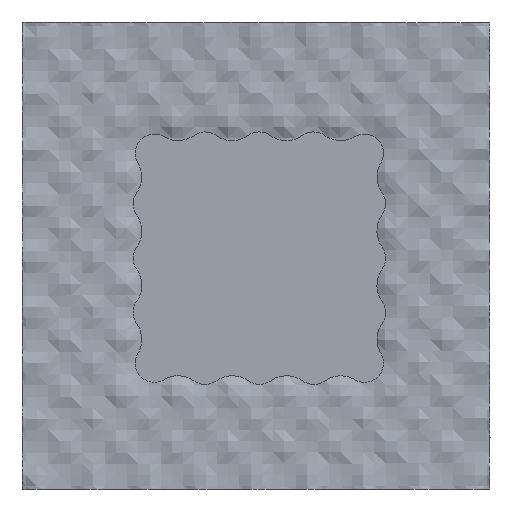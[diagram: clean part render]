
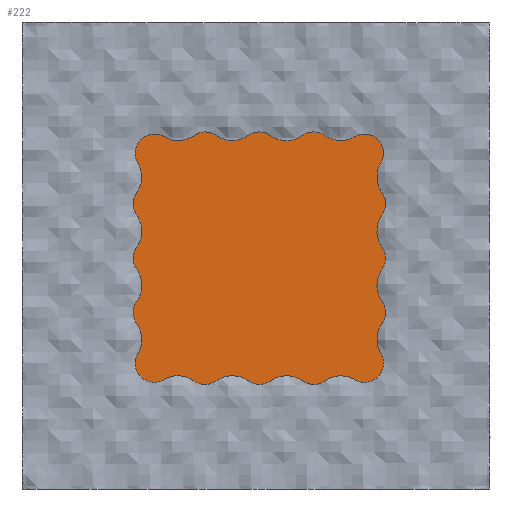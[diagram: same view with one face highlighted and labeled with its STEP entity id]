
A CAD part, front view. The second image highlights one B-rep face of the part: STEP entity #222.
In plain terms, the highlighted planar face has unit normal (0, -1, 0).
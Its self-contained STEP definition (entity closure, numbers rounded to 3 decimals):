
#222=ADVANCED_FACE('',(#307),#1180,.T.);
#307=FACE_OUTER_BOUND('',#392,.T.);
#392=EDGE_LOOP('',(#485));
#485=ORIENTED_EDGE('',*,*,#860,.T.);
#860=EDGE_CURVE('',#1061,#1061,#1047,.T.);
#1047=(
BOUNDED_CURVE()
B_SPLINE_CURVE(2,(#1655,#1656,#1657,#1658,#1659,#1660,#1661,#1662,#1663,
#1664,#1665,#1666,#1667,#1668,#1669,#1670,#1671,#1672,#1673,#1674,#1675,
#1676,#1677,#1678,#1679,#1680,#1681,#1682,#1683,#1684,#1685,#1686,#1687,
#1688,#1689,#1690,#1691,#1692,#1693,#1694,#1695,#1696,#1697,#1698,#1699,
#1700,#1701,#1702,#1703,#1704,#1705,#1706,#1707,#1708,#1709,#1710,#1711,
#1712,#1713,#1714,#1715,#1716,#1717,#1718,#1719,#1720,#1721,#1722,#1723,
#1724,#1725,#1726,#1727),.UNSPECIFIED.,.T.,.F.)
B_SPLINE_CURVE_WITH_KNOTS((3,2,2,2,2,2,2,2,2,2,2,2,2,2,2,2,2,2,2,2,2,2,
2,2,2,2,2,2,2,2,2,2,2,2,2,2,3),(0.,43.33,102.072,148.257,
194.443,253.188,296.52,359.802,403.231,
466.513,509.845,568.59,614.775,660.961,
719.702,763.033,826.317,869.748,933.032,
976.363,1035.104,1081.289,1127.475,1186.22,
1229.552,1292.834,1336.263,1399.545,1442.877,
1501.622,1547.807,1593.993,1652.734,1696.065,
1759.349,1802.78,1866.064),.UNSPECIFIED.)
CURVE()
GEOMETRIC_REPRESENTATION_ITEM()
RATIONAL_B_SPLINE_CURVE((1.,0.814,1.,0.839,1.,0.79,
1.,0.79,1.,0.839,1.,0.814,1.,0.814,
1.,0.814,1.,0.814,1.,0.814,1.,0.839,
1.,0.79,1.,0.79,1.,0.839,1.,0.814,
1.,0.814,1.,0.814,1.,0.814,1.,0.814,
1.,0.839,1.,0.79,1.,0.79,1.,0.839,
1.,0.814,1.,0.814,1.,0.814,1.,0.814,
1.,0.814,1.,0.839,1.,0.79,1.,0.79,
1.,0.839,1.,0.814,1.,0.814,1.,0.814,
1.,0.814,1.))
REPRESENTATION_ITEM('')
);
#1061=VERTEX_POINT('',#1579);
#1180=PLANE('',#1274);
#1274=AXIS2_PLACEMENT_3D('',#1431,#1352,$);
#1352=DIRECTION('',(0.,-1.,0.));
#1431=CARTESIAN_POINT('',(-150.067,-270.9,684.227));
#1579=CARTESIAN_POINT('',(-130.714,-270.9,849.905));
#1655=CARTESIAN_POINT('',(-130.714,-270.9,849.905));
#1656=CARTESIAN_POINT('',(-145.211,-270.9,829.617));
#1657=CARTESIAN_POINT('',(-130.772,-270.9,809.289));
#1658=CARTESIAN_POINT('',(-111.595,-270.9,782.291));
#1659=CARTESIAN_POINT('',(-128.456,-270.9,753.789));
#1660=CARTESIAN_POINT('',(-142.28,-270.9,730.42));
#1661=CARTESIAN_POINT('',(-123.081,-270.9,711.221));
#1662=CARTESIAN_POINT('',(-103.882,-270.9,692.021));
#1663=CARTESIAN_POINT('',(-80.512,-270.9,705.845));
#1664=CARTESIAN_POINT('',(-52.008,-270.9,722.706));
#1665=CARTESIAN_POINT('',(-25.01,-270.9,703.526));
#1666=CARTESIAN_POINT('',(-4.682,-270.9,689.085));
#1667=CARTESIAN_POINT('',(15.607,-270.9,703.58));
#1668=CARTESIAN_POINT('',(45.258,-270.9,724.765));
#1669=CARTESIAN_POINT('',(74.907,-270.9,703.578));
#1670=CARTESIAN_POINT('',(95.254,-270.9,689.037));
#1671=CARTESIAN_POINT('',(115.603,-270.9,703.576));
#1672=CARTESIAN_POINT('',(145.251,-270.9,724.758));
#1673=CARTESIAN_POINT('',(174.9,-270.9,703.577));
#1674=CARTESIAN_POINT('',(195.189,-270.9,689.087));
#1675=CARTESIAN_POINT('',(215.514,-270.9,703.526));
#1676=CARTESIAN_POINT('',(242.512,-270.9,722.706));
#1677=CARTESIAN_POINT('',(271.017,-270.9,705.845));
#1678=CARTESIAN_POINT('',(294.386,-270.9,692.021));
#1679=CARTESIAN_POINT('',(313.585,-270.9,711.221));
#1680=CARTESIAN_POINT('',(332.785,-270.9,730.42));
#1681=CARTESIAN_POINT('',(318.96,-270.9,753.789));
#1682=CARTESIAN_POINT('',(302.1,-270.9,782.291));
#1683=CARTESIAN_POINT('',(321.276,-270.9,809.289));
#1684=CARTESIAN_POINT('',(335.715,-270.9,829.617));
#1685=CARTESIAN_POINT('',(321.219,-270.9,849.905));
#1686=CARTESIAN_POINT('',(300.032,-270.9,879.556));
#1687=CARTESIAN_POINT('',(321.22,-270.9,909.206));
#1688=CARTESIAN_POINT('',(335.759,-270.9,929.552));
#1689=CARTESIAN_POINT('',(321.221,-270.9,949.898));
#1690=CARTESIAN_POINT('',(300.034,-270.9,979.545));
#1691=CARTESIAN_POINT('',(321.219,-270.9,1009.194));
#1692=CARTESIAN_POINT('',(335.715,-270.9,1029.481));
#1693=CARTESIAN_POINT('',(321.276,-270.9,1049.81));
#1694=CARTESIAN_POINT('',(302.1,-270.9,1076.808));
#1695=CARTESIAN_POINT('',(318.96,-270.9,1105.309));
#1696=CARTESIAN_POINT('',(332.785,-270.9,1128.678));
#1697=CARTESIAN_POINT('',(313.585,-270.9,1147.878));
#1698=CARTESIAN_POINT('',(294.386,-270.9,1167.077));
#1699=CARTESIAN_POINT('',(271.017,-270.9,1153.253));
#1700=CARTESIAN_POINT('',(242.512,-270.9,1136.392));
#1701=CARTESIAN_POINT('',(215.514,-270.9,1155.572));
#1702=CARTESIAN_POINT('',(195.189,-270.9,1170.012));
#1703=CARTESIAN_POINT('',(174.9,-270.9,1155.522));
#1704=CARTESIAN_POINT('',(145.251,-270.9,1134.34));
#1705=CARTESIAN_POINT('',(115.603,-270.9,1155.523));
#1706=CARTESIAN_POINT('',(95.254,-270.9,1170.061));
#1707=CARTESIAN_POINT('',(74.907,-270.9,1155.521));
#1708=CARTESIAN_POINT('',(45.258,-270.9,1134.334));
#1709=CARTESIAN_POINT('',(15.607,-270.9,1155.518));
#1710=CARTESIAN_POINT('',(-4.682,-270.9,1170.014));
#1711=CARTESIAN_POINT('',(-25.01,-270.9,1155.572));
#1712=CARTESIAN_POINT('',(-52.008,-270.9,1136.392));
#1713=CARTESIAN_POINT('',(-80.512,-270.9,1153.253));
#1714=CARTESIAN_POINT('',(-103.882,-270.9,1167.077));
#1715=CARTESIAN_POINT('',(-123.081,-270.9,1147.878));
#1716=CARTESIAN_POINT('',(-142.28,-270.9,1128.678));
#1717=CARTESIAN_POINT('',(-128.456,-270.9,1105.309));
#1718=CARTESIAN_POINT('',(-111.595,-270.9,1076.808));
#1719=CARTESIAN_POINT('',(-130.772,-270.9,1049.81));
#1720=CARTESIAN_POINT('',(-145.208,-270.9,1029.485));
#1721=CARTESIAN_POINT('',(-130.716,-270.9,1009.2));
#1722=CARTESIAN_POINT('',(-109.533,-270.9,979.551));
#1723=CARTESIAN_POINT('',(-130.717,-270.9,949.904));
#1724=CARTESIAN_POINT('',(-145.257,-270.9,929.555));
#1725=CARTESIAN_POINT('',(-130.716,-270.9,909.206));
#1726=CARTESIAN_POINT('',(-109.528,-270.9,879.556));
#1727=CARTESIAN_POINT('',(-130.714,-270.9,849.905));
